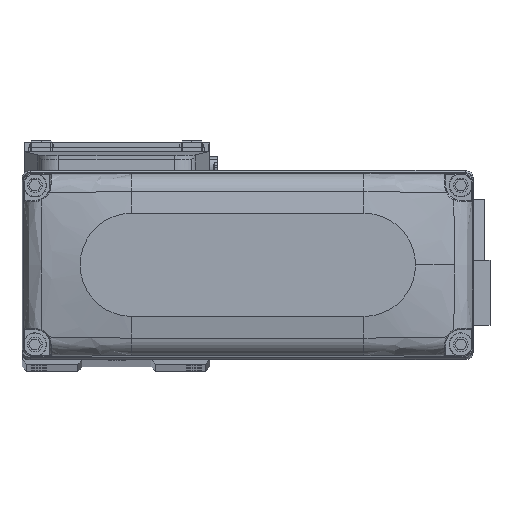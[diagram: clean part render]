
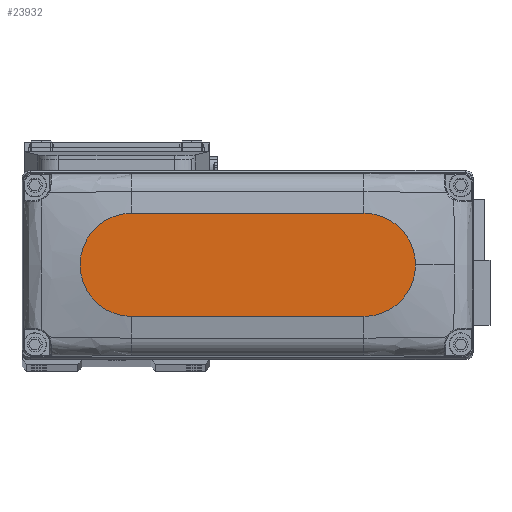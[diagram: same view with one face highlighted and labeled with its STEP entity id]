
A CAD part, top view. The second image highlights one B-rep face of the part: STEP entity #23932.
In plain terms, the highlighted planar face has unit normal (0, 0, 1).
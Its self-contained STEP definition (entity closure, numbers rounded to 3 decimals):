
#45 = VECTOR ( 'NONE', #23638, 1000. ) ;
#287 = CARTESIAN_POINT ( 'NONE',  ( -27., 12., 25. ) ) ;
#320 = EDGE_CURVE ( 'NONE', #21993, #23056, #27893, .T. ) ;
#652 = DIRECTION ( 'NONE',  ( 0., 0., 1. ) ) ;
#1195 = DIRECTION ( 'NONE',  ( 1., 0., 0. ) ) ;
#1930 = ORIENTED_EDGE ( 'NONE', *, *, #39292, .T. ) ;
#1983 = DIRECTION ( 'NONE',  ( 1., 0., 0. ) ) ;
#5012 = ORIENTED_EDGE ( 'NONE', *, *, #17256, .T. ) ;
#5014 = PLANE ( 'NONE',  #25896 ) ;
#5648 = ORIENTED_EDGE ( 'NONE', *, *, #320, .T. ) ;
#6467 = DIRECTION ( 'NONE',  ( 1., 0., 0. ) ) ;
#10511 = CARTESIAN_POINT ( 'NONE',  ( -27., 12., 25. ) ) ;
#10546 = AXIS2_PLACEMENT_3D ( 'NONE', #16492, #28757, #1195 ) ;
#10923 = CIRCLE ( 'NONE', #16062, 12. ) ;
#11359 = CARTESIAN_POINT ( 'NONE',  ( -27., -12., 25. ) ) ;
#12555 = DIRECTION ( 'NONE',  ( -1., 0., 0. ) ) ;
#12930 = DIRECTION ( 'NONE',  ( 1., 0., 0. ) ) ;
#13121 = CARTESIAN_POINT ( 'NONE',  ( 27., -12., 25. ) ) ;
#13937 = CIRCLE ( 'NONE', #36454, 12. ) ;
#14387 = VERTEX_POINT ( 'NONE', #38988 ) ;
#14579 = CARTESIAN_POINT ( 'NONE',  ( 39., 0., 25. ) ) ;
#16062 = AXIS2_PLACEMENT_3D ( 'NONE', #21751, #34024, #6467 ) ;
#16492 = CARTESIAN_POINT ( 'NONE',  ( 27., 0., 25. ) ) ;
#17256 = EDGE_CURVE ( 'NONE', #23056, #29087, #13937, .T. ) ;
#17283 = CARTESIAN_POINT ( 'NONE',  ( 0., 0., 25. ) ) ;
#17377 = VERTEX_POINT ( 'NONE', #10511 ) ;
#21751 = CARTESIAN_POINT ( 'NONE',  ( -27., 0., 25. ) ) ;
#21993 = VERTEX_POINT ( 'NONE', #13121 ) ;
#22513 = EDGE_CURVE ( 'NONE', #14387, #21993, #38930, .T. ) ;
#22978 = ORIENTED_EDGE ( 'NONE', *, *, #22513, .T. ) ;
#23056 = VERTEX_POINT ( 'NONE', #14579 ) ;
#23323 = ORIENTED_EDGE ( 'NONE', *, *, #26267, .T. ) ;
#23638 = DIRECTION ( 'NONE',  ( 1., 0., 0. ) ) ;
#23932 = ADVANCED_FACE ( 'NONE', ( #32575 ), #5014, .T. ) ;
#24740 = VECTOR ( 'NONE', #12555, 1000. ) ;
#25896 = AXIS2_PLACEMENT_3D ( 'NONE', #17283, #29543, #1983 ) ;
#26267 = EDGE_CURVE ( 'NONE', #29087, #17377, #27850, .T. ) ;
#27576 = EDGE_LOOP ( 'NONE', ( #23323, #1930, #22978, #5648, #5012 ) ) ;
#27850 = LINE ( 'NONE', #287, #24740 ) ;
#27893 = CIRCLE ( 'NONE', #10546, 12. ) ;
#28219 = CARTESIAN_POINT ( 'NONE',  ( 27., 0., 25. ) ) ;
#28757 = DIRECTION ( 'NONE',  ( 0., 0., 1. ) ) ;
#29087 = VERTEX_POINT ( 'NONE', #37567 ) ;
#29543 = DIRECTION ( 'NONE',  ( 0., 0., 1. ) ) ;
#32575 = FACE_OUTER_BOUND ( 'NONE', #27576, .T. ) ;
#34024 = DIRECTION ( 'NONE',  ( 0., 0., 1. ) ) ;
#36454 = AXIS2_PLACEMENT_3D ( 'NONE', #28219, #652, #12930 ) ;
#37567 = CARTESIAN_POINT ( 'NONE',  ( 27., 12., 25. ) ) ;
#38930 = LINE ( 'NONE', #11359, #45 ) ;
#38988 = CARTESIAN_POINT ( 'NONE',  ( -27., -12., 25. ) ) ;
#39292 = EDGE_CURVE ( 'NONE', #17377, #14387, #10923, .T. ) ;
